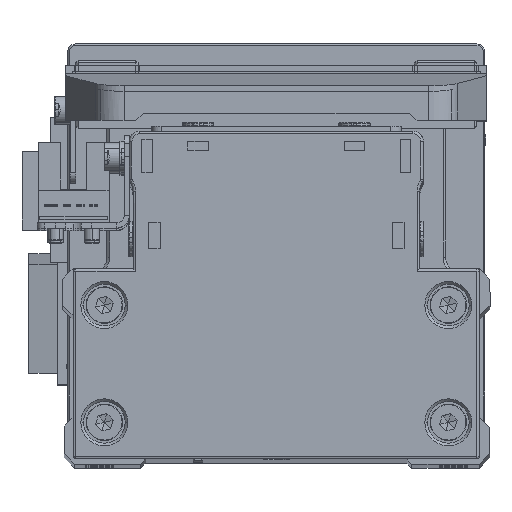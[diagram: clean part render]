
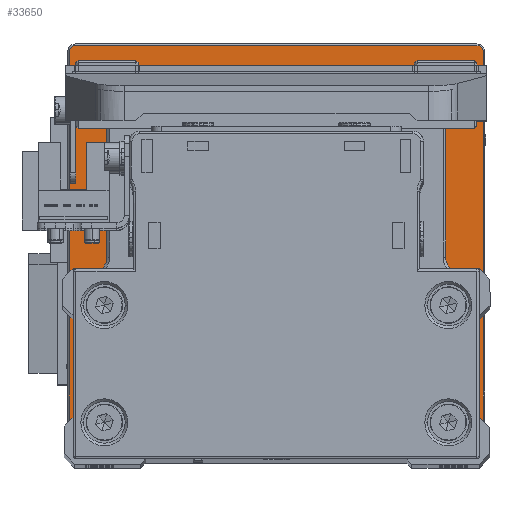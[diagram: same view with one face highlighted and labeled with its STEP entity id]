
A CAD part, top view. The second image highlights one B-rep face of the part: STEP entity #33650.
In plain terms, the highlighted planar face has unit normal (0, 0, 1) as drawn and (0, 1, 0) by its records, which use the part's own axes.
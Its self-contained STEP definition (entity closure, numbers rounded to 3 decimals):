
#606 = DIRECTION ( 'NONE',  ( 0., 0., -1. ) ) ;
#862 = VECTOR ( 'NONE', #17171, 1000. ) ;
#933 = DIRECTION ( 'NONE',  ( 0., 1., 0. ) ) ;
#1058 = AXIS2_PLACEMENT_3D ( 'NONE', #13448, #25548, #37676 ) ;
#1222 = CIRCLE ( 'NONE', #23425, 1.2 ) ;
#1786 = FACE_OUTER_BOUND ( 'NONE', #22701, .T. ) ;
#2034 = CARTESIAN_POINT ( 'NONE',  ( -39.7, 12., 38.5 ) ) ;
#3175 = CARTESIAN_POINT ( 'NONE',  ( -39.7, 12., -38.5 ) ) ;
#3393 = DIRECTION ( 'NONE',  ( 0., 0., -1. ) ) ;
#3665 = ORIENTED_EDGE ( 'NONE', *, *, #8327, .T. ) ;
#3865 = CARTESIAN_POINT ( 'NONE',  ( 0., 12., -39.7 ) ) ;
#4013 = DIRECTION ( 'NONE',  ( 0., 0., 1. ) ) ;
#4174 = VERTEX_POINT ( 'NONE', #10114 ) ;
#4671 = ORIENTED_EDGE ( 'NONE', *, *, #21038, .F. ) ;
#5046 = CARTESIAN_POINT ( 'NONE',  ( 39.7, 12., 0. ) ) ;
#5279 = LINE ( 'NONE', #17404, #31900 ) ;
#5343 = VERTEX_POINT ( 'NONE', #12113 ) ;
#6445 = EDGE_CURVE ( 'NONE', #12697, #21581, #31075, .T. ) ;
#7715 = CARTESIAN_POINT ( 'NONE',  ( 38.5, 12., -38.5 ) ) ;
#8327 = EDGE_CURVE ( 'NONE', #21581, #36986, #34326, .T. ) ;
#10114 = CARTESIAN_POINT ( 'NONE',  ( 0., 12., 20.5 ) ) ;
#10764 = ORIENTED_EDGE ( 'NONE', *, *, #30108, .F. ) ;
#10940 = DIRECTION ( 'NONE',  ( 0., -1., 0. ) ) ;
#10993 = VERTEX_POINT ( 'NONE', #29873 ) ;
#11667 = EDGE_CURVE ( 'NONE', #33402, #12697, #30112, .T. ) ;
#11792 = LINE ( 'NONE', #23898, #33277 ) ;
#12113 = CARTESIAN_POINT ( 'NONE',  ( 39.7, 12., 38.5 ) ) ;
#12697 = VERTEX_POINT ( 'NONE', #33161 ) ;
#12710 = AXIS2_PLACEMENT_3D ( 'NONE', #28147, #933, #13073 ) ;
#13073 = DIRECTION ( 'NONE',  ( 0., 0., 1. ) ) ;
#13448 = CARTESIAN_POINT ( 'NONE',  ( -38.5, 12., 38.5 ) ) ;
#13506 = VERTEX_POINT ( 'NONE', #29487 ) ;
#13925 = FACE_BOUND ( 'NONE', #21863, .T. ) ;
#14439 = ORIENTED_EDGE ( 'NONE', *, *, #15259, .T. ) ;
#14859 = EDGE_CURVE ( 'NONE', #36986, #35106, #5279, .T. ) ;
#15259 = EDGE_CURVE ( 'NONE', #5343, #33402, #32249, .T. ) ;
#15699 = CARTESIAN_POINT ( 'NONE',  ( 38.5, 12., 38.5 ) ) ;
#15979 = DIRECTION ( 'NONE',  ( -1., 0., 0. ) ) ;
#16328 = CIRCLE ( 'NONE', #38535, 20.5 ) ;
#16606 = EDGE_CURVE ( 'NONE', #10993, #31798, #11792, .T. ) ;
#17171 = DIRECTION ( 'NONE',  ( 0., 0., -1. ) ) ;
#17193 = AXIS2_PLACEMENT_3D ( 'NONE', #18505, #30609, #3393 ) ;
#17318 = VECTOR ( 'NONE', #15979, 1000. ) ;
#17404 = CARTESIAN_POINT ( 'NONE',  ( -39.7, 12., 0. ) ) ;
#18192 = CIRCLE ( 'NONE', #1058, 1.2 ) ;
#18505 = CARTESIAN_POINT ( 'NONE',  ( -38.5, 12., -38.5 ) ) ;
#19117 = CARTESIAN_POINT ( 'NONE',  ( 0., 12., 0. ) ) ;
#19758 = CARTESIAN_POINT ( 'NONE',  ( -38.5, 12., -39.7 ) ) ;
#19836 = DIRECTION ( 'NONE',  ( 0., 1., 0. ) ) ;
#20817 = AXIS2_PLACEMENT_3D ( 'NONE', #38157, #10940, #23049 ) ;
#21038 = EDGE_CURVE ( 'NONE', #4174, #13506, #29811, .T. ) ;
#21581 = VERTEX_POINT ( 'NONE', #19758 ) ;
#21863 = EDGE_LOOP ( 'NONE', ( #4671, #10764 ) ) ;
#22701 = EDGE_LOOP ( 'NONE', ( #30997, #35030, #3665, #29768, #33047, #27678, #27806, #14439 ) ) ;
#23049 = DIRECTION ( 'NONE',  ( 0., 0., -1. ) ) ;
#23425 = AXIS2_PLACEMENT_3D ( 'NONE', #15699, #27801, #606 ) ;
#23898 = CARTESIAN_POINT ( 'NONE',  ( 0., 12., 39.7 ) ) ;
#25548 = DIRECTION ( 'NONE',  ( 0., 1., 0. ) ) ;
#26040 = PLANE ( 'NONE',  #20817 ) ;
#27432 = EDGE_CURVE ( 'NONE', #31798, #5343, #1222, .T. ) ;
#27678 = ORIENTED_EDGE ( 'NONE', *, *, #16606, .T. ) ;
#27801 = DIRECTION ( 'NONE',  ( 0., 1., 0. ) ) ;
#27806 = ORIENTED_EDGE ( 'NONE', *, *, #27432, .T. ) ;
#28147 = CARTESIAN_POINT ( 'NONE',  ( 0., 12., 0. ) ) ;
#28328 = CARTESIAN_POINT ( 'NONE',  ( 38.5, 12., 39.7 ) ) ;
#29487 = CARTESIAN_POINT ( 'NONE',  ( 0., 12., -20.5 ) ) ;
#29496 = DIRECTION ( 'NONE',  ( 0., 0., 1. ) ) ;
#29768 = ORIENTED_EDGE ( 'NONE', *, *, #14859, .T. ) ;
#29811 = CIRCLE ( 'NONE', #12710, 20.5 ) ;
#29873 = CARTESIAN_POINT ( 'NONE',  ( -38.5, 12., 39.7 ) ) ;
#30108 = EDGE_CURVE ( 'NONE', #13506, #4174, #16328, .T. ) ;
#30112 = CIRCLE ( 'NONE', #35219, 1.2 ) ;
#30609 = DIRECTION ( 'NONE',  ( 0., 1., 0. ) ) ;
#30997 = ORIENTED_EDGE ( 'NONE', *, *, #11667, .T. ) ;
#31075 = LINE ( 'NONE', #3865, #17318 ) ;
#31215 = DIRECTION ( 'NONE',  ( 0., 1., 0. ) ) ;
#31798 = VERTEX_POINT ( 'NONE', #28328 ) ;
#31900 = VECTOR ( 'NONE', #29496, 1000. ) ;
#31938 = DIRECTION ( 'NONE',  ( 0., 0., -1. ) ) ;
#32249 = LINE ( 'NONE', #5046, #862 ) ;
#33047 = ORIENTED_EDGE ( 'NONE', *, *, #35841, .T. ) ;
#33161 = CARTESIAN_POINT ( 'NONE',  ( 38.5, 12., -39.7 ) ) ;
#33277 = VECTOR ( 'NONE', #36021, 1000. ) ;
#33402 = VERTEX_POINT ( 'NONE', #36585 ) ;
#33650 = ADVANCED_FACE ( 'NONE', ( #1786, #13925 ), #26040, .F. ) ;
#34326 = CIRCLE ( 'NONE', #17193, 1.2 ) ;
#35030 = ORIENTED_EDGE ( 'NONE', *, *, #6445, .T. ) ;
#35106 = VERTEX_POINT ( 'NONE', #2034 ) ;
#35219 = AXIS2_PLACEMENT_3D ( 'NONE', #7715, #19836, #31938 ) ;
#35841 = EDGE_CURVE ( 'NONE', #35106, #10993, #18192, .T. ) ;
#36021 = DIRECTION ( 'NONE',  ( 1., 0., 0. ) ) ;
#36585 = CARTESIAN_POINT ( 'NONE',  ( 39.7, 12., -38.5 ) ) ;
#36986 = VERTEX_POINT ( 'NONE', #3175 ) ;
#37676 = DIRECTION ( 'NONE',  ( 0., 0., -1. ) ) ;
#38157 = CARTESIAN_POINT ( 'NONE',  ( 0., 12., 0. ) ) ;
#38535 = AXIS2_PLACEMENT_3D ( 'NONE', #19117, #31215, #4013 ) ;
